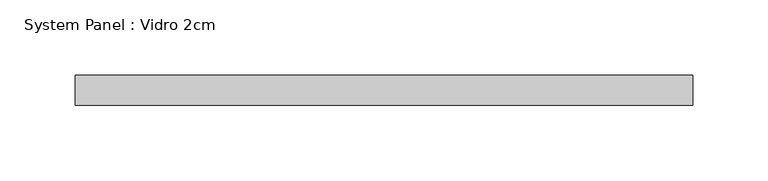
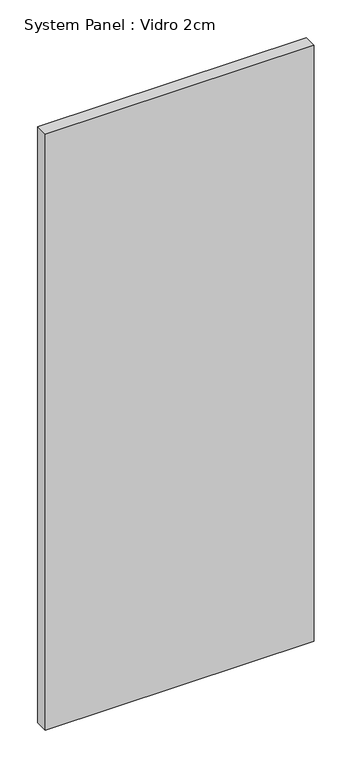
"""IFC4 building model written with IfcOpenShell, lengths in millimetres: plate geometry, System Panel : Vidro 2cm."""

from ifc_helpers import new_model, si_unit, origin, origin_with_axes, place, context, project, spatial, polyline, outline, extrude, source, transform, mapped, element, save


def system_panel_vidro_2cm_80f5f5df(model_context):
    return source(origin(), model_context, "Body", "SweptSolid", [
        extrude(outline(polyline([(204.9999998, -20.0), (-204.9999998, -20.0), (-204.9999998, 0.0), (204.9999998, 0.0), (204.9999998, -20.0)])), origin_with_axes(), (0.0, 0.0, 1.0), 960.0),
    ])


if __name__ == "__main__":
    model = new_model("IFC4")
    model_context = context("Model", 3, world=origin())
    ifc_project = project(units=[si_unit("LENGTHUNIT", "METRE", prefix="MILLI")], contexts=[model_context])
    site = spatial("IfcSite", under=ifc_project)
    building = spatial("IfcBuilding", under=site)
    placement = place(None, origin())
    system_panel_vidro_2cm_shape = system_panel_vidro_2cm_80f5f5df(model_context)
    element("IfcPlate", 1, ObjectType="System Panel : Vidro 2cm", at=placement, inside=building, context=model_context, shape_type="MappedRepresentation", body=[
        mapped(system_panel_vidro_2cm_shape, transform((0.0, 0.0, 0.0), x_axis=(1.0, 0.0, 0.0), y_axis=(0.0, 1.0, 0.0), z_axis=(0.0, 0.0, 1.0))),
    ])
    save(model, "model.ifc")
